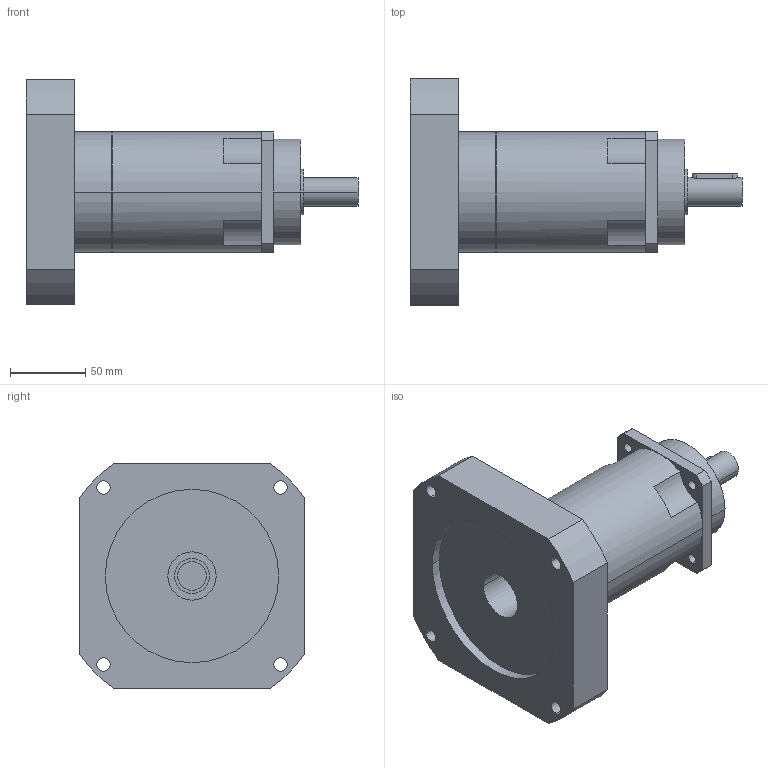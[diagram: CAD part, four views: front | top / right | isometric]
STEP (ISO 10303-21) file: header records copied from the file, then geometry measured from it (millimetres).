
FILE_DESCRIPTION(('CoCreate Modeling STEP Export'),'2;1');
FILE_NAME('GPR100_ig-48-64-80-100-120-144-180-216_19_B5_19_P11.stp','2014-08-26T11:56:52',(''),(''),'CoCreate Modeling STEP processor for AP214 (Solid Model)','CoCreate Modeling 16.00C 25-Feb-2009 (C) Parametric Technology GmbH','');
FILE_SCHEMA(('AUTOMOTIVE_DESIGN { 1 0 10303 214 1 1 1 1 }'));
Length unit declared in the file: millimetre
Products named in the file (2): GPR100_ig-48-64-80-100-120-144-180-216_19_B5_19_P11
Assembly tree (1 placements, depth 2):
  GPR100_ig-48-64-80-100-120-144-180-216_19_B5_19_P11
    GPR100_ig-48-64-80-100-120-144-180-216_19_B5_19_P11
Bounding box: 220.4 x 150 x 150 mm (x, y, z)
Volume: 1332579.2 mm3; surface area: 115518.2 mm2
Topology: 1 solids, 1 shells, 86 faces, 242 edges, 166 vertices
Faces by surface type: cylinder 50, plane 30, cone 6
Entity records: 2552 total; most frequent: ORIENTED_EDGE 480, CARTESIAN_POINT 465, DIRECTION 376, EDGE_CURVE 240, VERTEX_POINT 166, AXIS2_PLACEMENT_3D 141, EDGE_LOOP 112, VECTOR 94
